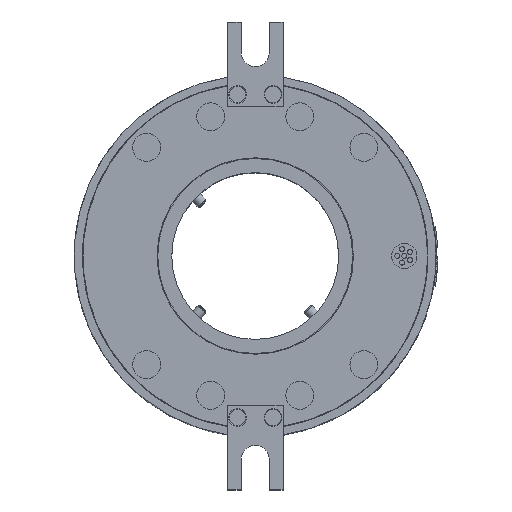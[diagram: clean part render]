
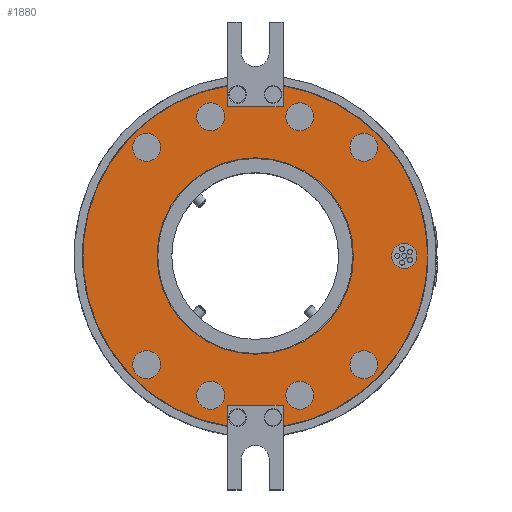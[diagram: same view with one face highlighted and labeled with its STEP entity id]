
A CAD part, top view. The second image highlights one B-rep face of the part: STEP entity #1880.
In plain terms, the highlighted planar face has unit normal (0, 0, 1).
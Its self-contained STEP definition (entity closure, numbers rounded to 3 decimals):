
#186=FACE_BOUND('',#4786,.T.);
#187=FACE_BOUND('',#4787,.T.);
#188=FACE_BOUND('',#4788,.T.);
#189=FACE_BOUND('',#4789,.T.);
#190=FACE_BOUND('',#4790,.T.);
#191=FACE_BOUND('',#4791,.T.);
#192=FACE_BOUND('',#4792,.T.);
#193=FACE_BOUND('',#4793,.T.);
#194=FACE_BOUND('',#4794,.T.);
#195=FACE_BOUND('',#4795,.T.);
#196=FACE_BOUND('',#4796,.T.);
#505=CIRCLE('',#16411,5.);
#506=CIRCLE('',#16412,5.);
#507=CIRCLE('',#16413,5.);
#508=CIRCLE('',#16414,5.);
#509=CIRCLE('',#16415,4.5);
#510=CIRCLE('',#16416,5.);
#511=CIRCLE('',#16417,5.);
#512=CIRCLE('',#16418,5.);
#513=CIRCLE('',#16419,5.);
#514=CIRCLE('',#16420,35.25);
#515=CIRCLE('',#16421,61.9);
#516=CIRCLE('',#16422,61.9);
#926=PLANE('',#16423);
#1184=LINE('',#30744,#3169);
#1185=LINE('',#30747,#3170);
#1186=LINE('',#30751,#3171);
#1187=LINE('',#30753,#3172);
#1188=LINE('',#30755,#3173);
#1189=LINE('',#30759,#3174);
#1880=ADVANCED_FACE('',(#186,#187,#188,#189,#190,#191,#192,#193,#194,#195,
#196),#926,.T.);
#3169=VECTOR('',#17892,1.);
#3170=VECTOR('',#17893,1.);
#3171=VECTOR('',#17896,1.);
#3172=VECTOR('',#17897,1.);
#3173=VECTOR('',#17898,1.);
#3174=VECTOR('',#17901,1.);
#4786=EDGE_LOOP('',(#7415));
#4787=EDGE_LOOP('',(#7416));
#4788=EDGE_LOOP('',(#7417));
#4789=EDGE_LOOP('',(#7418));
#4790=EDGE_LOOP('',(#7419));
#4791=EDGE_LOOP('',(#7420));
#4792=EDGE_LOOP('',(#7421));
#4793=EDGE_LOOP('',(#7422));
#4794=EDGE_LOOP('',(#7423));
#4795=EDGE_LOOP('',(#7424));
#4796=EDGE_LOOP('',(#7425,#7426,#7427,#7428,#7429,#7430,#7431,#7432));
#7415=ORIENTED_EDGE('',*,*,#13131,.T.);
#7416=ORIENTED_EDGE('',*,*,#13132,.T.);
#7417=ORIENTED_EDGE('',*,*,#13133,.T.);
#7418=ORIENTED_EDGE('',*,*,#13134,.T.);
#7419=ORIENTED_EDGE('',*,*,#13135,.T.);
#7420=ORIENTED_EDGE('',*,*,#13136,.T.);
#7421=ORIENTED_EDGE('',*,*,#13137,.T.);
#7422=ORIENTED_EDGE('',*,*,#13138,.T.);
#7423=ORIENTED_EDGE('',*,*,#13139,.T.);
#7424=ORIENTED_EDGE('',*,*,#13140,.T.);
#7425=ORIENTED_EDGE('',*,*,#13141,.T.);
#7426=ORIENTED_EDGE('',*,*,#13142,.T.);
#7427=ORIENTED_EDGE('',*,*,#13143,.F.);
#7428=ORIENTED_EDGE('',*,*,#13144,.T.);
#7429=ORIENTED_EDGE('',*,*,#13145,.T.);
#7430=ORIENTED_EDGE('',*,*,#13146,.T.);
#7431=ORIENTED_EDGE('',*,*,#13147,.F.);
#7432=ORIENTED_EDGE('',*,*,#13148,.T.);
#11033=VERTEX_POINT('',#30725);
#11034=VERTEX_POINT('',#30727);
#11035=VERTEX_POINT('',#30729);
#11036=VERTEX_POINT('',#30731);
#11037=VERTEX_POINT('',#30733);
#11038=VERTEX_POINT('',#30735);
#11039=VERTEX_POINT('',#30737);
#11040=VERTEX_POINT('',#30739);
#11041=VERTEX_POINT('',#30741);
#11042=VERTEX_POINT('',#30743);
#11043=VERTEX_POINT('',#30745);
#11044=VERTEX_POINT('',#30746);
#11045=VERTEX_POINT('',#30748);
#11046=VERTEX_POINT('',#30750);
#11047=VERTEX_POINT('',#30752);
#11048=VERTEX_POINT('',#30754);
#11049=VERTEX_POINT('',#30756);
#11050=VERTEX_POINT('',#30758);
#13131=EDGE_CURVE('',#11033,#11033,#505,.T.);
#13132=EDGE_CURVE('',#11034,#11034,#506,.T.);
#13133=EDGE_CURVE('',#11035,#11035,#507,.T.);
#13134=EDGE_CURVE('',#11036,#11036,#508,.T.);
#13135=EDGE_CURVE('',#11037,#11037,#509,.T.);
#13136=EDGE_CURVE('',#11038,#11038,#510,.T.);
#13137=EDGE_CURVE('',#11039,#11039,#511,.T.);
#13138=EDGE_CURVE('',#11040,#11040,#512,.T.);
#13139=EDGE_CURVE('',#11041,#11041,#513,.T.);
#13140=EDGE_CURVE('',#11042,#11042,#514,.T.);
#13141=EDGE_CURVE('',#11043,#11044,#1184,.T.);
#13142=EDGE_CURVE('',#11044,#11045,#1185,.T.);
#13143=EDGE_CURVE('',#11046,#11045,#515,.T.);
#13144=EDGE_CURVE('',#11046,#11047,#1186,.T.);
#13145=EDGE_CURVE('',#11047,#11048,#1187,.T.);
#13146=EDGE_CURVE('',#11048,#11049,#1188,.T.);
#13147=EDGE_CURVE('',#11050,#11049,#516,.T.);
#13148=EDGE_CURVE('',#11050,#11043,#1189,.T.);
#16411=AXIS2_PLACEMENT_3D('',#30724,#17872,#17873);
#16412=AXIS2_PLACEMENT_3D('',#30726,#17874,#17875);
#16413=AXIS2_PLACEMENT_3D('',#30728,#17876,#17877);
#16414=AXIS2_PLACEMENT_3D('',#30730,#17878,#17879);
#16415=AXIS2_PLACEMENT_3D('',#30732,#17880,#17881);
#16416=AXIS2_PLACEMENT_3D('',#30734,#17882,#17883);
#16417=AXIS2_PLACEMENT_3D('',#30736,#17884,#17885);
#16418=AXIS2_PLACEMENT_3D('',#30738,#17886,#17887);
#16419=AXIS2_PLACEMENT_3D('',#30740,#17888,#17889);
#16420=AXIS2_PLACEMENT_3D('',#30742,#17890,#17891);
#16421=AXIS2_PLACEMENT_3D('',#30749,#17894,#17895);
#16422=AXIS2_PLACEMENT_3D('',#30757,#17899,#17900);
#16423=AXIS2_PLACEMENT_3D('',#30760,#17902,#17903);
#17872=DIRECTION('',(0.,0.,-1.));
#17873=DIRECTION('',(1.,0.,0.));
#17874=DIRECTION('',(0.,0.,-1.));
#17875=DIRECTION('',(1.,0.,0.));
#17876=DIRECTION('',(0.,0.,-1.));
#17877=DIRECTION('',(1.,0.,0.));
#17878=DIRECTION('',(0.,0.,-1.));
#17879=DIRECTION('',(1.,0.,0.));
#17880=DIRECTION('',(0.,0.,-1.));
#17881=DIRECTION('',(1.,0.,0.));
#17882=DIRECTION('',(0.,0.,-1.));
#17883=DIRECTION('',(1.,0.,0.));
#17884=DIRECTION('',(0.,0.,-1.));
#17885=DIRECTION('',(1.,0.,0.));
#17886=DIRECTION('',(0.,0.,-1.));
#17887=DIRECTION('',(1.,0.,0.));
#17888=DIRECTION('',(0.,0.,-1.));
#17889=DIRECTION('',(1.,0.,0.));
#17890=DIRECTION('',(0.,0.,-1.));
#17891=DIRECTION('',(1.,0.,0.));
#17892=DIRECTION('',(-1.,0.,0.));
#17893=DIRECTION('',(0.,1.,0.));
#17894=DIRECTION('',(0.,0.,-1.));
#17895=DIRECTION('',(1.,0.,0.));
#17896=DIRECTION('',(0.,1.,0.));
#17897=DIRECTION('',(1.,0.,0.));
#17898=DIRECTION('',(0.,-1.,0.));
#17899=DIRECTION('',(0.,0.,-1.));
#17900=DIRECTION('',(1.,0.,0.));
#17901=DIRECTION('',(0.,-1.,0.));
#17902=DIRECTION('',(0.,0.,1.));
#17903=DIRECTION('',(1.,0.,0.));
#30724=CARTESIAN_POINT('',(-39.,39.,86.5));
#30725=CARTESIAN_POINT('',(-34.,39.,86.5));
#30726=CARTESIAN_POINT('',(-16.,50.,86.5));
#30727=CARTESIAN_POINT('',(-11.,50.,86.5));
#30728=CARTESIAN_POINT('',(16.,50.,86.5));
#30729=CARTESIAN_POINT('',(21.,50.,86.5));
#30730=CARTESIAN_POINT('',(39.,39.,86.5));
#30731=CARTESIAN_POINT('',(44.,39.,86.5));
#30732=CARTESIAN_POINT('',(53.5,0.,86.5));
#30733=CARTESIAN_POINT('',(58.,0.,86.5));
#30734=CARTESIAN_POINT('',(39.,-39.,86.5));
#30735=CARTESIAN_POINT('',(44.,-39.,86.5));
#30736=CARTESIAN_POINT('',(16.,-50.,86.5));
#30737=CARTESIAN_POINT('',(21.,-50.,86.5));
#30738=CARTESIAN_POINT('',(-16.,-50.,86.5));
#30739=CARTESIAN_POINT('',(-11.,-50.,86.5));
#30740=CARTESIAN_POINT('',(-39.,-39.,86.5));
#30741=CARTESIAN_POINT('',(-34.,-39.,86.5));
#30742=CARTESIAN_POINT('',(0.,0.,86.5));
#30743=CARTESIAN_POINT('',(35.25,0.,86.5));
#30744=CARTESIAN_POINT('',(10.,53.5,86.5));
#30745=CARTESIAN_POINT('',(10.,53.5,86.5));
#30746=CARTESIAN_POINT('',(-10.,53.5,86.5));
#30747=CARTESIAN_POINT('',(-10.,53.5,86.5));
#30748=CARTESIAN_POINT('',(-10.,61.087,86.5));
#30749=CARTESIAN_POINT('',(0.,0.,
86.5));
#30750=CARTESIAN_POINT('',(-10.,-61.087,86.5));
#30751=CARTESIAN_POINT('',(-10.,-84.,86.5));
#30752=CARTESIAN_POINT('',(-10.,-53.5,86.5));
#30753=CARTESIAN_POINT('',(-10.,-53.5,86.5));
#30754=CARTESIAN_POINT('',(10.,-53.5,86.5));
#30755=CARTESIAN_POINT('',(10.,-53.5,86.5));
#30756=CARTESIAN_POINT('',(10.,-61.087,86.5));
#30757=CARTESIAN_POINT('',(0.,0.,
86.5));
#30758=CARTESIAN_POINT('',(10.,61.087,86.5));
#30759=CARTESIAN_POINT('',(10.,84.,86.5));
#30760=CARTESIAN_POINT('',(0.,0.,
86.5));
